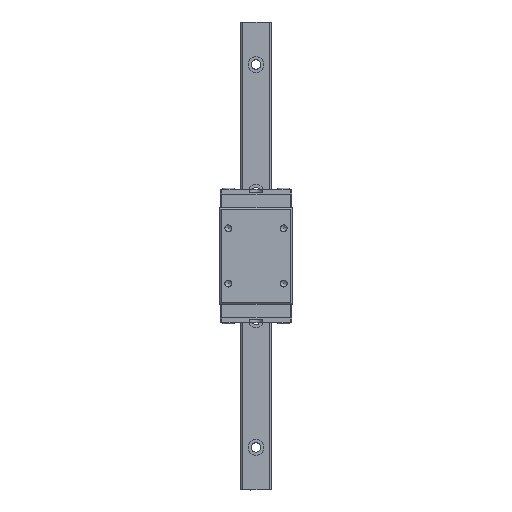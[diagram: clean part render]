
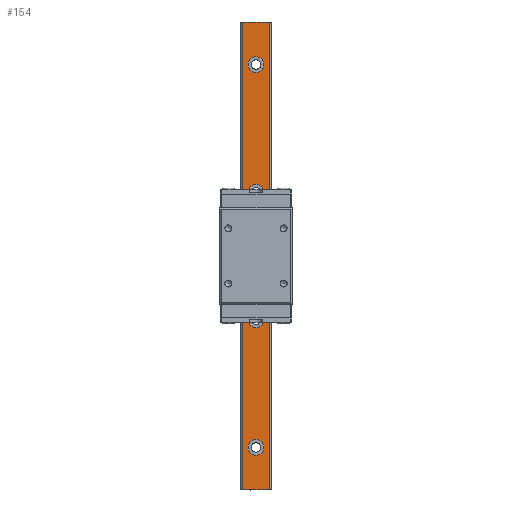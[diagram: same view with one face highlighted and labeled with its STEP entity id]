
A CAD part, top view. The second image highlights one B-rep face of the part: STEP entity #154.
In plain terms, the highlighted planar face has unit normal (0, 0, 1).
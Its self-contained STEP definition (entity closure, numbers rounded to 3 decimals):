
#154 = ADVANCED_FACE( '', ( #306, #307, #308, #309, #310 ), #311, .F. );
#306 = FACE_BOUND( '', #496, .T. );
#307 = FACE_BOUND( '', #497, .T. );
#308 = FACE_BOUND( '', #498, .T. );
#309 = FACE_BOUND( '', #499, .T. );
#310 = FACE_OUTER_BOUND( '', #500, .T. );
#311 = PLANE( '', #501 );
#496 = EDGE_LOOP( '', ( #1029 ) );
#497 = EDGE_LOOP( '', ( #1030 ) );
#498 = EDGE_LOOP( '', ( #1031 ) );
#499 = EDGE_LOOP( '', ( #1032 ) );
#500 = EDGE_LOOP( '', ( #1033, #1034, #1035, #1036 ) );
#501 = AXIS2_PLACEMENT_3D( '', #1037, #1038, #1039 );
#1029 = ORIENTED_EDGE( '', *, *, #1954, .T. );
#1030 = ORIENTED_EDGE( '', *, *, #2025, .T. );
#1031 = ORIENTED_EDGE( '', *, *, #2015, .T. );
#1032 = ORIENTED_EDGE( '', *, *, #2026, .T. );
#1033 = ORIENTED_EDGE( '', *, *, #2027, .T. );
#1034 = ORIENTED_EDGE( '', *, *, #1951, .F. );
#1035 = ORIENTED_EDGE( '', *, *, #2004, .F. );
#1036 = ORIENTED_EDGE( '', *, *, #2012, .T. );
#1037 = CARTESIAN_POINT( '', ( -6.15, -110., 13. ) );
#1038 = DIRECTION( '', ( 0., 0., -1. ) );
#1039 = DIRECTION( '', ( -1., 0., 0. ) );
#1951 = EDGE_CURVE( '', #2761, #2756, #2763, .T. );
#1954 = EDGE_CURVE( '', #2767, #2767, #2768, .T. );
#2004 = EDGE_CURVE( '', #2855, #2761, #2857, .T. );
#2012 = EDGE_CURVE( '', #2855, #2866, #2868, .T. );
#2015 = EDGE_CURVE( '', #2871, #2871, #2872, .T. );
#2025 = EDGE_CURVE( '', #2886, #2886, #2887, .T. );
#2026 = EDGE_CURVE( '', #2888, #2888, #2889, .T. );
#2027 = EDGE_CURVE( '', #2866, #2756, #2890, .T. );
#2756 = VERTEX_POINT( '', #5330 );
#2761 = VERTEX_POINT( '', #5337 );
#2763 = LINE( '', #5340, #5341 );
#2767 = VERTEX_POINT( '', #5345 );
#2768 = CIRCLE( '', #5346, 3.75 );
#2855 = VERTEX_POINT( '', #5469 );
#2857 = LINE( '', #5472, #5473 );
#2866 = VERTEX_POINT( '', #5485 );
#2868 = LINE( '', #5488, #5489 );
#2871 = VERTEX_POINT( '', #5493 );
#2872 = CIRCLE( '', #5494, 3.75 );
#2886 = VERTEX_POINT( '', #5510 );
#2887 = CIRCLE( '', #5511, 3.75 );
#2888 = VERTEX_POINT( '', #5512 );
#2889 = CIRCLE( '', #5513, 3.75 );
#2890 = LINE( '', #5514, #5515 );
#5330 = CARTESIAN_POINT( '', ( -6.15, 110., 13. ) );
#5337 = CARTESIAN_POINT( '', ( -6.15, -110., 13. ) );
#5340 = CARTESIAN_POINT( '', ( -6.15, -110., 13. ) );
#5341 = VECTOR( '', #6349, 1000. );
#5345 = CARTESIAN_POINT( '', ( 3.75, 90., 13. ) );
#5346 = AXIS2_PLACEMENT_3D( '', #6353, #6354, #6355 );
#5469 = CARTESIAN_POINT( '', ( 6.15, -110., 13. ) );
#5472 = CARTESIAN_POINT( '', ( -6.15, -110., 13. ) );
#5473 = VECTOR( '', #6405, 1000. );
#5485 = CARTESIAN_POINT( '', ( 6.15, 110., 13. ) );
#5488 = CARTESIAN_POINT( '', ( 6.15, -110., 13. ) );
#5489 = VECTOR( '', #6416, 1000. );
#5493 = CARTESIAN_POINT( '', ( 3.75, -30., 13. ) );
#5494 = AXIS2_PLACEMENT_3D( '', #6418, #6419, #6420 );
#5510 = CARTESIAN_POINT( '', ( 3.75, 30., 13. ) );
#5511 = AXIS2_PLACEMENT_3D( '', #6432, #6433, #6434 );
#5512 = CARTESIAN_POINT( '', ( 3.75, -90., 13. ) );
#5513 = AXIS2_PLACEMENT_3D( '', #6435, #6436, #6437 );
#5514 = CARTESIAN_POINT( '', ( -6.15, 110., 13. ) );
#5515 = VECTOR( '', #6438, 1000. );
#6349 = DIRECTION( '', ( 0., 1., 0. ) );
#6353 = CARTESIAN_POINT( '', ( 0., 90., 13. ) );
#6354 = DIRECTION( '', ( 0., 0., -1. ) );
#6355 = DIRECTION( '', ( 1., 0., 0. ) );
#6405 = DIRECTION( '', ( -1., 0., 0. ) );
#6416 = DIRECTION( '', ( 0., 1., 0. ) );
#6418 = CARTESIAN_POINT( '', ( 0., -30., 13. ) );
#6419 = DIRECTION( '', ( 0., 0., -1. ) );
#6420 = DIRECTION( '', ( 1., 0., 0. ) );
#6432 = CARTESIAN_POINT( '', ( 0., 30., 13. ) );
#6433 = DIRECTION( '', ( 0., 0., -1. ) );
#6434 = DIRECTION( '', ( 1., 0., 0. ) );
#6435 = CARTESIAN_POINT( '', ( 0., -90., 13. ) );
#6436 = DIRECTION( '', ( 0., 0., -1. ) );
#6437 = DIRECTION( '', ( 1., 0., 0. ) );
#6438 = DIRECTION( '', ( -1., 0., 0. ) );
